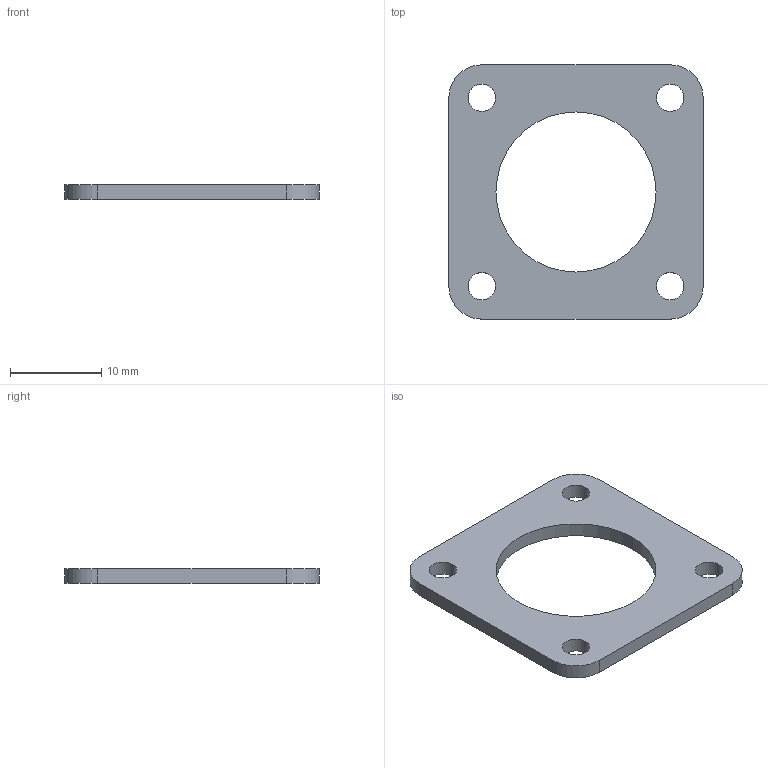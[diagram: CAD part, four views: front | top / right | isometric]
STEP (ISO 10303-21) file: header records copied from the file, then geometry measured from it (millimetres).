
FILE_DESCRIPTION (( 'STEP AP203' ), '1' );
FILE_NAME ('P-100842-12.STEP', '2018-09-13T00:20:38', ( '' ), ( '' ), 'SwSTEP 2.0', 'SolidWorks 2018', '' );
FILE_SCHEMA (( 'CONFIG_CONTROL_DESIGN' ));
Length unit declared in the file: millimetre
Products named in the file (1): P-100842-12
Bounding box: 27.8 x 27.8 x 1.6 mm (x, y, z)
Volume: 788.7 mm3; surface area: 1302.1 mm2
Topology: 1 solids, 1 shells, 20 faces, 54 edges, 36 vertices
Faces by surface type: cylinder 14, plane 6
Entity records: 743 total; most frequent: DIRECTION 124, CARTESIAN_POINT 111, ORIENTED_EDGE 108, EDGE_CURVE 54, AXIS2_PLACEMENT_3D 49, VERTEX_POINT 36, EDGE_LOOP 30, CIRCLE 28
